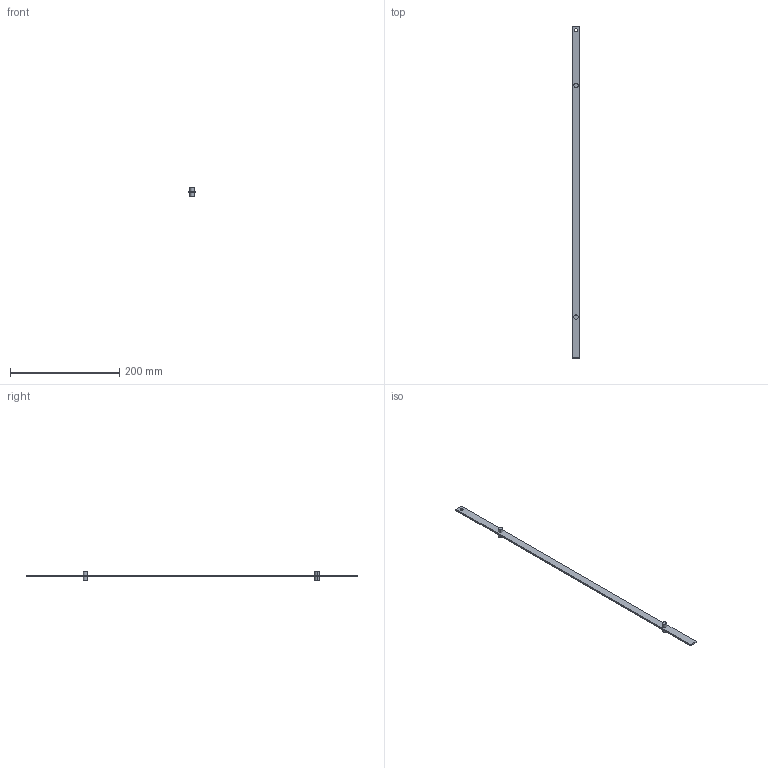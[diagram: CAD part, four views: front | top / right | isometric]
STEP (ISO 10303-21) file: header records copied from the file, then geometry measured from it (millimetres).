
FILE_DESCRIPTION (( 'STEP AP203' ), '1' );
FILE_NAME ('1-27 táhlo 03.278.STEP', '2013-09-20T06:09:46', ( '' ), ( '' ), 'SwSTEP 2.0', 'SolidWorks 2013', '' );
FILE_SCHEMA (( 'CONFIG_CONTROL_DESIGN' ));
Length unit declared in the file: millimetre
Products named in the file (3): 1-27 táhlo 03.278; 1-27  táhlo SRU219  03.278; èep táhla
Assembly tree (3 placements, depth 2):
  1-27 táhlo 03.278
    1-27  táhlo SRU219  03.278
    èep táhla  x2
Bounding box: 14 x 608.5 x 18 mm (x, y, z)
Volume: 27177.5 mm3; surface area: 21898.9 mm2
Topology: 3 solids, 3 shells, 20 faces, 42 edges, 28 vertices
Faces by surface type: cylinder 10, plane 10
Entity records: 805 total; most frequent: DIRECTION 96, CARTESIAN_POINT 82, ORIENTED_EDGE 72, AXIS2_PLACEMENT_3D 38, EDGE_CURVE 36, PERSON_AND_ORGANIZATION 27, VERTEX_POINT 24, EDGE_LOOP 22
